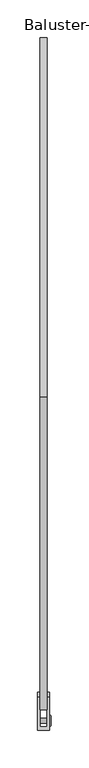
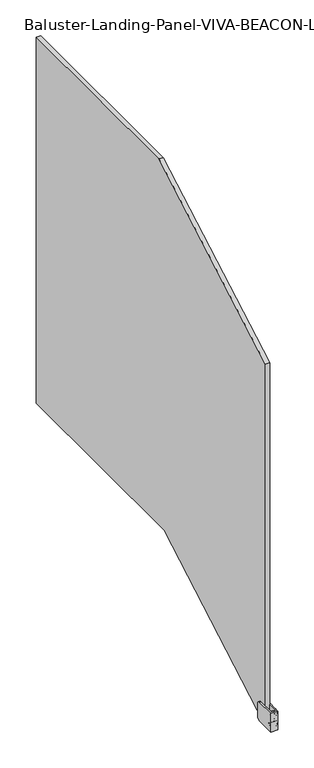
"""IFC4 building model written with IfcOpenShell, lengths in millimetres: railing geometry, Baluster-Landing-Panel-VIVA-BEACON-Lower : Standard_Glass."""

from ifc_helpers import new_model, si_unit, point, frame, origin, place, context, project, spatial, polyline, circle_curve, ellipse_curve, trimmed, outline, extrude, source, transform, mapped, element, save
from ifc_brep_helpers import plane_surface, cylinder_surface, revolved_surface, advanced_brep


def baluster_landing_panel_viva_beacon_lower_standard_glass_00d717b1(model_context):
    return source(origin(), model_context, "Body", "SolidModel", [
        advanced_brep(
        [(33.3375, -17.8996011, 0.771525), (33.3375, -10.8087093, 0.771525), (46.0375, -10.8087093, 0.771525), (46.0375, -17.8996011, 0.771525), (46.0375, -6.9463661, 0.771525), (46.0375, -21.7619443, 0.771525), (46.904612, -16.0102306, 0.771525), (46.904612, -12.6980798, 0.771525), (33.3375, -12.6980798, 0.771525), (33.3375, -16.0102306, 0.771525), (46.8723449, -21.7619443, 0.771525), (46.8723449, -6.9463661, 0.771525), (48.1536169, -8.2276382, 0.771525), (48.1536169, -20.4806723, 0.771525), (48.1536169, -10.0555597, 0.771525), (48.1536169, -18.6527508, 0.771525), (46.904612, -10.0555597, 0.771525), (46.904612, -18.6527508, 0.771525)],
        [
            (0, 1, circle_curve(frame((33.3375, -14.3541552, 0.771525), z_axis=(1.0, 0.0, 0.0), x_axis=(0.0, 1.0, 0.0)), 3.5454459)),
            (1, 2),
            (2, 3, circle_curve(frame((46.0375, -14.3541552, 0.771525), z_axis=(-1.0, 0.0, 0.0), x_axis=(0.0, 1.0, 0.0)), 3.5454459)),
            (3, 0),
            (1, 0, circle_curve(frame((33.3375, -14.3541552, 0.771525), z_axis=(1.0, 0.0, 0.0), x_axis=(0.0, 1.0, 0.0)), 3.5454459)),
            (3, 2, circle_curve(frame((46.0375, -14.3541552, 0.771525), z_axis=(-1.0, 0.0, 0.0), x_axis=(0.0, 1.0, 0.0)), 3.5454459)),
            (2, 4),
            (4, 5, circle_curve(frame((46.0375, -14.3541552, 0.771525), z_axis=(-1.0, 0.0, 0.0), x_axis=(0.0, 1.0, 0.0)), 7.4077891)),
            (5, 3),
            (5, 4, circle_curve(frame((46.0375, -14.3541552, 0.771525), z_axis=(-1.0, 0.0, 0.0), x_axis=(0.0, 1.0, 0.0)), 7.4077891)),
            (6, 7, circle_curve(frame((46.904612, -14.3541552, 0.771525), z_axis=(1.0, 0.0, 0.0), x_axis=(0.0, 1.0, 0.0)), 1.6560754)),
            (7, 8),
            (8, 9, circle_curve(frame((33.3375, -14.3541552, 0.771525), z_axis=(-1.0, 0.0, 0.0), x_axis=(0.0, 1.0, 0.0)), 1.6560754)),
            (9, 6),
            (7, 6, circle_curve(frame((46.904612, -14.3541552, 0.771525), z_axis=(1.0, 0.0, 0.0), x_axis=(0.0, 1.0, 0.0)), 1.6560754)),
            (9, 8, circle_curve(frame((33.3375, -14.3541552, 0.771525), z_axis=(-1.0, 0.0, 0.0), x_axis=(0.0, 1.0, 0.0)), 1.6560754)),
            (10, 11, circle_curve(frame((46.8723449, -14.3541552, 0.771525), z_axis=(1.0, 0.0, 0.0), x_axis=(0.0, 1.0, 0.0)), 7.4077891)),
            (11, 12, circle_curve(frame((46.8723449, -8.2276382, 0.771525), z_axis=(0.0, 0.0, -1.0), x_axis=(0.0, 1.0, 0.0)), 1.281272)),
            (12, 13, circle_curve(frame((48.1536169, -14.3541552, 0.771525), z_axis=(-1.0, 0.0, 0.0), x_axis=(0.0, 1.0, 0.0)), 6.1265171)),
            (13, 10, circle_curve(frame((46.8723449, -20.4806723, 0.771525), z_axis=(0.0, 0.0, -1.0), x_axis=(0.0, -1.0, 0.0)), 1.281272)),
            (11, 10, circle_curve(frame((46.8723449, -14.3541552, 0.771525), z_axis=(1.0, 0.0, 0.0), x_axis=(0.0, 1.0, 0.0)), 7.4077891)),
            (13, 12, circle_curve(frame((48.1536169, -14.3541552, 0.771525), z_axis=(-1.0, 0.0, 0.0), x_axis=(0.0, 1.0, 0.0)), 6.1265171)),
            (12, 14),
            (14, 15, circle_curve(frame((48.1536169, -14.3541552, 0.771525), z_axis=(-1.0, 0.0, 0.0), x_axis=(0.0, 1.0, 0.0)), 4.2985955)),
            (15, 13),
            (15, 14, circle_curve(frame((48.1536169, -14.3541552, 0.771525), z_axis=(-1.0, 0.0, 0.0), x_axis=(0.0, 1.0, 0.0)), 4.2985955)),
            (4, 11),
            (10, 5),
            (8, 1),
            (0, 9),
            (14, 16),
            (16, 17, circle_curve(frame((46.904612, -14.3541552, 0.771525), z_axis=(-1.0, 0.0, 0.0), x_axis=(0.0, 1.0, 0.0)), 4.2985955)),
            (17, 15),
            (17, 16, circle_curve(frame((46.904612, -14.3541552, 0.771525), z_axis=(-1.0, 0.0, 0.0), x_axis=(0.0, 1.0, 0.0)), 4.2985955)),
            (16, 7),
            (6, 17),
        ],
        [
            cylinder_surface(frame((42.5407669, -14.3541552, 0.771525), z_axis=(-1.0, 0.0, 0.0), x_axis=(0.0, 1.0, 0.0)), 3.5454459),
            plane_surface(frame((46.0375, -14.3541552, 0.771525), z_axis=(-1.0, 0.0, 0.0), x_axis=(0.0, 1.0, 0.0))),
            revolved_surface(polyline([(33.3375, -12.698079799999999, 0.771525), (46.904612, -12.698079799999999, 0.771525)]), (42.5407669, -14.3541552, 0.771525), (-1.0, 0.0, 0.0)),
            revolved_surface(trimmed(ellipse_curve(frame((46.8723449, -8.2276382, 0.771525), z_axis=(0.0, 0.0, 1.0), x_axis=(0.0, 1.0, 0.0)), 1.281272, 1.281272), [point((48.1536169, -8.2276382, 0.771525))], [point((46.8723449, -6.9463661, 0.771525))], True, "CARTESIAN"), (42.5407669, -14.3541552, 0.771525), (-1.0, 0.0, 0.0)),
            plane_surface(frame((48.1536169, -14.3541552, 0.771525), z_axis=(1.0, 0.0, 0.0), x_axis=(0.0, 1.0, 0.0))),
            cylinder_surface(frame((42.5407669, -14.3541552, 0.771525), z_axis=(-1.0, 0.0, 0.0), x_axis=(0.0, 1.0, 0.0)), 7.4077891),
            plane_surface(frame((33.3375, -14.3541552, 0.771525), z_axis=(-1.0, 0.0, 0.0), x_axis=(0.0, 1.0, 0.0))),
            revolved_surface(polyline([(46.904612, -10.0555597, 0.771525), (48.1536169, -10.0555597, 0.771525)]), (42.5407669, -14.3541552, 0.771525), (-1.0, 0.0, 0.0)),
            plane_surface(frame((46.904612, -14.3541552, 0.771525), z_axis=(1.0, 0.0, 0.0), x_axis=(0.0, 1.0, 0.0))),
        ],
        [
            (0, [[1, 2, 3, 4]]),
            (0, [[5, -4, 6, -2]]),
            (1, [[-3, 7, 8, 9]]),
            (1, [[-6, -9, 10, -7]]),
            (2, [[11, 12, 13, 14]]),
            (2, [[15, -14, 16, -12]]),
            (3, [[17, 18, 19, 20]]),
            (3, [[21, -20, 22, -18]]),
            (4, [[-19, 23, 24, 25]]),
            (4, [[-22, -25, 26, -23]]),
            (5, [[-8, 27, -17, 28]]),
            (5, [[-10, -28, -21, -27]]),
            (6, [[-13, 29, -1, 30]]),
            (6, [[-16, -30, -5, -29]]),
            (7, [[-24, 31, 32, 33]]),
            (7, [[-26, -33, 34, -31]]),
            (8, [[-32, 35, -11, 36]]),
            (8, [[-34, -36, -15, -35]]),
        ],
    ),
        advanced_brep(
        [(33.3375, -17.8996011, -23.834725), (33.3375, -10.8087093, -23.834725), (46.0375, -10.8087093, -23.834725), (46.0375, -17.8996011, -23.834725), (46.0375, -6.9463661, -23.834725), (46.0375, -21.7619443, -23.834725), (46.904612, -16.0102306, -23.834725), (46.904612, -12.6980798, -23.834725), (33.3375, -12.6980798, -23.834725), (33.3375, -16.0102306, -23.834725), (46.8723449, -21.7619443, -23.834725), (46.8723449, -6.9463661, -23.834725), (48.1536169, -8.2276382, -23.834725), (48.1536169, -20.4806723, -23.834725), (48.1536169, -10.0555597, -23.834725), (48.1536169, -18.6527508, -23.834725), (46.904612, -10.0555597, -23.834725), (46.904612, -18.6527508, -23.834725)],
        [
            (0, 1, circle_curve(frame((33.3375, -14.3541552, -23.834725), z_axis=(1.0, 0.0, 0.0), x_axis=(0.0, 1.0, 0.0)), 3.5454459)),
            (1, 2),
            (2, 3, circle_curve(frame((46.0375, -14.3541552, -23.834725), z_axis=(-1.0, 0.0, 0.0), x_axis=(0.0, 1.0, 0.0)), 3.5454459)),
            (3, 0),
            (1, 0, circle_curve(frame((33.3375, -14.3541552, -23.834725), z_axis=(1.0, 0.0, 0.0), x_axis=(0.0, 1.0, 0.0)), 3.5454459)),
            (3, 2, circle_curve(frame((46.0375, -14.3541552, -23.834725), z_axis=(-1.0, 0.0, 0.0), x_axis=(0.0, 1.0, 0.0)), 3.5454459)),
            (2, 4),
            (4, 5, circle_curve(frame((46.0375, -14.3541552, -23.834725), z_axis=(-1.0, 0.0, 0.0), x_axis=(0.0, 1.0, 0.0)), 7.4077891)),
            (5, 3),
            (5, 4, circle_curve(frame((46.0375, -14.3541552, -23.834725), z_axis=(-1.0, 0.0, 0.0), x_axis=(0.0, 1.0, 0.0)), 7.4077891)),
            (6, 7, circle_curve(frame((46.904612, -14.3541552, -23.834725), z_axis=(1.0, 0.0, 0.0), x_axis=(0.0, 1.0, 0.0)), 1.6560754)),
            (7, 8),
            (8, 9, circle_curve(frame((33.3375, -14.3541552, -23.834725), z_axis=(-1.0, 0.0, 0.0), x_axis=(0.0, 1.0, 0.0)), 1.6560754)),
            (9, 6),
            (7, 6, circle_curve(frame((46.904612, -14.3541552, -23.834725), z_axis=(1.0, 0.0, 0.0), x_axis=(0.0, 1.0, 0.0)), 1.6560754)),
            (9, 8, circle_curve(frame((33.3375, -14.3541552, -23.834725), z_axis=(-1.0, 0.0, 0.0), x_axis=(0.0, 1.0, 0.0)), 1.6560754)),
            (10, 11, circle_curve(frame((46.8723449, -14.3541552, -23.834725), z_axis=(1.0, 0.0, 0.0), x_axis=(0.0, 1.0, 0.0)), 7.4077891)),
            (11, 12, circle_curve(frame((46.8723449, -8.2276382, -23.834725), z_axis=(0.0, 0.0, -1.0), x_axis=(0.0, 1.0, 0.0)), 1.281272)),
            (12, 13, circle_curve(frame((48.1536169, -14.3541552, -23.834725), z_axis=(-1.0, 0.0, 0.0), x_axis=(0.0, 1.0, 0.0)), 6.1265171)),
            (13, 10, circle_curve(frame((46.8723449, -20.4806723, -23.834725), z_axis=(0.0, 0.0, -1.0), x_axis=(0.0, -1.0, 0.0)), 1.281272)),
            (11, 10, circle_curve(frame((46.8723449, -14.3541552, -23.834725), z_axis=(1.0, 0.0, 0.0), x_axis=(0.0, 1.0, 0.0)), 7.4077891)),
            (13, 12, circle_curve(frame((48.1536169, -14.3541552, -23.834725), z_axis=(-1.0, 0.0, 0.0), x_axis=(0.0, 1.0, 0.0)), 6.1265171)),
            (12, 14),
            (14, 15, circle_curve(frame((48.1536169, -14.3541552, -23.834725), z_axis=(-1.0, 0.0, 0.0), x_axis=(0.0, 1.0, 0.0)), 4.2985955)),
            (15, 13),
            (15, 14, circle_curve(frame((48.1536169, -14.3541552, -23.834725), z_axis=(-1.0, 0.0, 0.0), x_axis=(0.0, 1.0, 0.0)), 4.2985955)),
            (8, 1),
            (0, 9),
            (4, 11),
            (10, 5),
            (14, 16),
            (16, 17, circle_curve(frame((46.904612, -14.3541552, -23.834725), z_axis=(-1.0, 0.0, 0.0), x_axis=(0.0, 1.0, 0.0)), 4.2985955)),
            (17, 15),
            (17, 16, circle_curve(frame((46.904612, -14.3541552, -23.834725), z_axis=(-1.0, 0.0, 0.0), x_axis=(0.0, 1.0, 0.0)), 4.2985955)),
            (16, 7),
            (6, 17),
        ],
        [
            cylinder_surface(frame((42.5407669, -14.3541552, -23.834725), z_axis=(-1.0, 0.0, 0.0), x_axis=(0.0, 1.0, 0.0)), 3.5454459),
            plane_surface(frame((46.0375, -14.3541552, -23.834725), z_axis=(-1.0, 0.0, 0.0), x_axis=(0.0, 1.0, 0.0))),
            revolved_surface(polyline([(33.3375, -12.698079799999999, -23.834725), (46.904612, -12.698079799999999, -23.834725)]), (42.5407669, -14.3541552, -23.834725), (-1.0, 0.0, 0.0)),
            revolved_surface(trimmed(ellipse_curve(frame((46.8723449, -8.2276382, -23.834725), z_axis=(0.0, 0.0, 1.0), x_axis=(0.0, 1.0, 0.0)), 1.281272, 1.281272), [point((48.1536169, -8.2276382, -23.834725))], [point((46.8723449, -6.9463661, -23.834725))], True, "CARTESIAN"), (42.5407669, -14.3541552, -23.834725), (-1.0, 0.0, 0.0)),
            plane_surface(frame((48.1536169, -14.3541552, -23.834725), z_axis=(1.0, 0.0, 0.0), x_axis=(0.0, 1.0, 0.0))),
            plane_surface(frame((33.3375, -14.3541552, -23.834725), z_axis=(-1.0, 0.0, 0.0), x_axis=(0.0, 1.0, 0.0))),
            cylinder_surface(frame((42.5407669, -14.3541552, -23.834725), z_axis=(-1.0, 0.0, 0.0), x_axis=(0.0, 1.0, 0.0)), 7.4077891),
            revolved_surface(polyline([(46.904612, -10.0555597, -23.834725), (48.1536169, -10.0555597, -23.834725)]), (42.5407669, -14.3541552, -23.834725), (-1.0, 0.0, 0.0)),
            plane_surface(frame((46.904612, -14.3541552, -23.834725), z_axis=(1.0, 0.0, 0.0), x_axis=(0.0, 1.0, 0.0))),
        ],
        [
            (0, [[1, 2, 3, 4]]),
            (0, [[5, -4, 6, -2]]),
            (1, [[-3, 7, 8, 9]]),
            (1, [[-6, -9, 10, -7]]),
            (2, [[11, 12, 13, 14]]),
            (2, [[15, -14, 16, -12]]),
            (3, [[17, 18, 19, 20]]),
            (3, [[21, -20, 22, -18]]),
            (4, [[-19, 23, 24, 25]]),
            (4, [[-22, -25, 26, -23]]),
            (5, [[-13, 27, -1, 28]]),
            (5, [[-16, -28, -5, -27]]),
            (6, [[-8, 29, -17, 30]]),
            (6, [[-10, -30, -21, -29]]),
            (7, [[-24, 31, 32, 33]]),
            (7, [[-26, -33, 34, -31]]),
            (8, [[-32, 35, -11, 36]]),
            (8, [[-34, -36, -15, -35]]),
        ],
    ),
        extrude(outline(polyline([(-18.4480835, -23.834725), (-16.4011194, -20.2892791), (-12.3071911, -20.2892791), (-10.2602269, -23.834725), (-12.3071911, -27.3801709), (-16.4011194, -27.3801709), (-18.4480835, -23.834725)])), frame((46.904612, 0.0, 0.0), z_axis=(1.0, 0.0, 0.0), x_axis=(0.0, 1.0, 0.0)), (0.0, 0.0, 1.0), 1.4969696),
        advanced_brep(
        [(46.0375, -26.9875, 10.6934), (46.0375, -26.9875, -33.7566), (46.0375, 17.4625, -33.7566), (46.0375, 23.8125, -27.4066), (46.0375, 23.8125, 4.3434), (46.0375, 17.4625, 10.6934), (30.1625, -26.9875, 10.6934), (30.1625, 17.4625, 10.6934), (30.1625, 23.8125, 4.3434), (30.1625, 23.8125, -27.4066), (30.1625, 17.4625, -33.7566), (30.1625, -26.9875, -33.7566), (33.3375, 17.4625, -33.7566), (33.3375, -22.2694196, -33.7566), (42.8625, -22.2694196, -33.7566), (42.8625, 17.4625, -33.7566), (33.3375, -22.2694196, 10.6934), (42.8625, -22.2694196, 10.6934), (42.8625, 17.4625, 10.6934), (42.8625, 23.8125, 4.3434), (42.8625, 23.8125, -27.4066), (33.3375, 23.8125, -27.4066), (33.3375, 23.8125, 4.3434), (33.3375, 17.4625, 10.6934)],
        [
            (0, 1),
            (1, 2),
            (2, 3, circle_curve(frame((46.0375, 17.4625, -27.4066), z_axis=(1.0, 0.0, 0.0), x_axis=(0.0, 1.0, 0.0)), 6.35)),
            (3, 4),
            (4, 5, circle_curve(frame((46.0375, 17.4625, 4.3434), z_axis=(1.0, 0.0, 0.0), x_axis=(0.0, 1.0, 0.0)), 6.35)),
            (5, 0),
            (6, 7),
            (7, 8, circle_curve(frame((30.1625, 17.4625, 4.3434), z_axis=(-1.0, 0.0, 0.0), x_axis=(0.0, 1.0, 0.0)), 6.35)),
            (8, 9),
            (9, 10, circle_curve(frame((30.1625, 17.4625, -27.4066), z_axis=(-1.0, 0.0, 0.0), x_axis=(0.0, 1.0, 0.0)), 6.35)),
            (10, 11),
            (11, 6),
            (0, 6),
            (11, 1),
            (10, 12),
            (12, 13),
            (13, 14),
            (14, 15),
            (15, 2),
            (13, 16),
            (16, 17),
            (17, 14),
            (17, 18),
            (18, 19, circle_curve(frame((42.8625, 17.4625, 4.3434), z_axis=(-1.0, 0.0, 0.0), x_axis=(0.0, 1.0, 0.0)), 6.35)),
            (19, 20),
            (20, 15, circle_curve(frame((42.8625, 17.4625, -27.4066), z_axis=(-1.0, 0.0, 0.0), x_axis=(0.0, 1.0, 0.0)), 6.35)),
            (12, 21, circle_curve(frame((33.3375, 17.4625, -27.4066), z_axis=(1.0, 0.0, 0.0), x_axis=(0.0, 1.0, 0.0)), 6.35)),
            (21, 22),
            (22, 23, circle_curve(frame((33.3375, 17.4625, 4.3434), z_axis=(1.0, 0.0, 0.0), x_axis=(0.0, 1.0, 0.0)), 6.35)),
            (23, 16),
            (20, 3),
            (9, 21),
            (19, 4),
            (8, 22),
            (18, 5),
            (7, 23),
        ],
        [
            plane_surface(frame((46.0375, -26.9875, -33.7566), z_axis=(1.0, 0.0, 0.0), x_axis=(0.0, 0.0, -1.0))),
            plane_surface(frame((30.1625, -26.9875, -33.7566), z_axis=(-1.0, 0.0, 0.0), x_axis=(0.0, 0.0, 1.0))),
            plane_surface(frame((46.0375, -26.9875, 10.6934), z_axis=(0.0, -1.0, 0.0), x_axis=(-1.0, 0.0, 0.0))),
            plane_surface(frame((46.0375, -26.9875, -33.7566), z_axis=(0.0, 0.0, -1.0), x_axis=(-1.0, 0.0, 0.0))),
            plane_surface(frame((33.3375, -22.2694196, 23.3934), z_axis=(0.0, 1.0, 0.0), x_axis=(0.0, 0.0, -1.0))),
            plane_surface(frame((42.8625, -22.2694196, 23.3934), z_axis=(-1.0, 0.0, 0.0), x_axis=(0.0, 0.0, -1.0))),
            plane_surface(frame((33.3375, 36.5125, 23.3934), z_axis=(1.0, 0.0, 0.0), x_axis=(0.0, 0.0, -1.0))),
            cylinder_surface(frame((30.1625, 17.4625, -27.4066), z_axis=(1.0, 0.0, 0.0), x_axis=(0.0, 1.0, 0.0)), 6.35),
            plane_surface(frame((46.0375, 23.8125, -27.4066), z_axis=(0.0, 1.0, 0.0), x_axis=(-1.0, 0.0, 0.0))),
            cylinder_surface(frame((30.1625, 17.4625, 4.3434), z_axis=(1.0, 0.0, 0.0), x_axis=(0.0, 1.0, 0.0)), 6.35),
            plane_surface(frame((46.0375, 17.4625, 10.6934), z_axis=(0.0, 0.0, 1.0), x_axis=(-1.0, 0.0, 0.0))),
        ],
        [
            (0, [[1, 2, 3, 4, 5, 6]]),
            (1, [[7, 8, 9, 10, 11, 12]]),
            (2, [[-1, 13, -12, 14]]),
            (3, [[-2, -14, -11, 15, 16, 17, 18, 19]]),
            (4, [[20, 21, 22, -17]]),
            (5, [[-22, 23, 24, 25, 26, -18]]),
            (6, [[-20, -16, 27, 28, 29, 30]]),
            (7, [[-3, -19, -26, 31]]),
            (7, [[-10, 32, -27, -15]]),
            (8, [[-4, -31, -25, 33]]),
            (8, [[-9, 34, -28, -32]]),
            (9, [[-5, -33, -24, 35]]),
            (9, [[-8, 36, -29, -34]]),
            (10, [[-6, -35, -23, -21, -30, -36, -7, -13]]),
        ],
    ),
        extrude(outline(polyline([(414.401, 1059.4086), (891.667, 1059.4086), (891.667, 189.103), (394.0827353, 189.103), (0.0, -36.0426), (0.0, 822.6548592), (414.401, 1059.4086)])), frame((33.3375, 0.0, 0.0), z_axis=(1.0, 0.0, 0.0), x_axis=(0.0, 1.0, 0.0)), (0.0, 0.0, 1.0), 9.525),
    ])


if __name__ == "__main__":
    model = new_model("IFC4")
    model_context = context("Model", 3, world=origin())
    ifc_project = project(units=[si_unit("LENGTHUNIT", "METRE", prefix="MILLI")], contexts=[model_context])
    site = spatial("IfcSite", under=ifc_project)
    building = spatial("IfcBuilding", under=site)
    placement = place(None, origin())
    baluster_landing_panel_viva_beacon_lower_standard_glass_shape = baluster_landing_panel_viva_beacon_lower_standard_glass_00d717b1(model_context)
    element("IfcRailing", 1, ObjectType="Baluster-Landing-Panel-VIVA-BEACON-Lower : Standard_Glass", at=placement, inside=building, context=model_context, shape_type="MappedRepresentation", body=[
        mapped(baluster_landing_panel_viva_beacon_lower_standard_glass_shape, transform((0.0, 0.0, 0.0), x_axis=(1.0, 0.0, 0.0), y_axis=(0.0, 1.0, 0.0), z_axis=(0.0, 0.0, 1.0))),
    ])
    save(model, "model.ifc")
